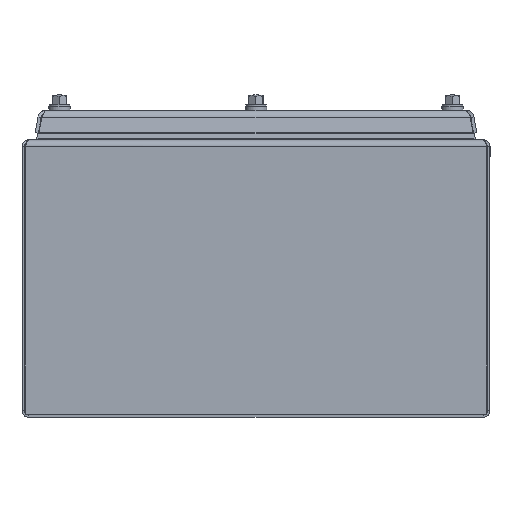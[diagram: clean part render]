
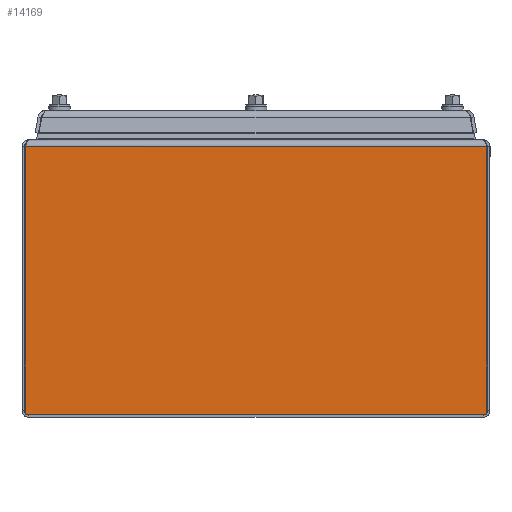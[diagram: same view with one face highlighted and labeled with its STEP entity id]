
A CAD part, front view. The second image highlights one B-rep face of the part: STEP entity #14169.
In plain terms, the highlighted planar face has unit normal (0, -1, 0).
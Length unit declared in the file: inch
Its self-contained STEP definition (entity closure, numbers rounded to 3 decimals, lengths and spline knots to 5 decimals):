
#133 = VERTEX_POINT ( 'NONE', #5224 ) ;
#366 = AXIS2_PLACEMENT_3D ( 'NONE', #15312, #5787, #16913 ) ;
#516 = CARTESIAN_POINT ( 'NONE',  ( 4.9945, 0., 5.856 ) ) ;
#1175 = EDGE_CURVE ( 'NONE', #5572, #6616, #9533, .T. ) ;
#3878 = CARTESIAN_POINT ( 'NONE',  ( -4.9945, 0., 0.068 ) ) ;
#5191 = CARTESIAN_POINT ( 'NONE',  ( -4.9945, 0., 0.068 ) ) ;
#5224 = CARTESIAN_POINT ( 'NONE',  ( -4.9945, 0., 5.856 ) ) ;
#5572 = VERTEX_POINT ( 'NONE', #9942 ) ;
#5762 = VECTOR ( 'NONE', #17343, 39.37008 ) ;
#5787 = DIRECTION ( 'NONE',  ( 0., 1., 0. ) ) ;
#6475 = CARTESIAN_POINT ( 'NONE',  ( -4.9945, 0., 0.068 ) ) ;
#6609 = CARTESIAN_POINT ( 'NONE',  ( 4.9945, 0., 0.068 ) ) ;
#6616 = VERTEX_POINT ( 'NONE', #3878 ) ;
#8350 = EDGE_LOOP ( 'NONE', ( #12341, #12781, #16392, #10473 ) ) ;
#8405 = LINE ( 'NONE', #6475, #12563 ) ;
#9107 = LINE ( 'NONE', #11198, #12782 ) ;
#9533 = LINE ( 'NONE', #5191, #5762 ) ;
#9691 = DIRECTION ( 'NONE',  ( -1., 0., 0. ) ) ;
#9942 = CARTESIAN_POINT ( 'NONE',  ( 4.9945, 0., 0.068 ) ) ;
#10389 = LINE ( 'NONE', #6609, #17822 ) ;
#10473 = ORIENTED_EDGE ( 'NONE', *, *, #10748, .F. ) ;
#10748 = EDGE_CURVE ( 'NONE', #13963, #5572, #10389, .T. ) ;
#11198 = CARTESIAN_POINT ( 'NONE',  ( 4.9945, 0., 5.856 ) ) ;
#11378 = EDGE_CURVE ( 'NONE', #6616, #133, #8405, .T. ) ;
#12325 = EDGE_CURVE ( 'NONE', #13963, #133, #9107, .T. ) ;
#12341 = ORIENTED_EDGE ( 'NONE', *, *, #12325, .T. ) ;
#12563 = VECTOR ( 'NONE', #17566, 39.37008 ) ;
#12781 = ORIENTED_EDGE ( 'NONE', *, *, #11378, .F. ) ;
#12782 = VECTOR ( 'NONE', #9691, 39.37008 ) ;
#13686 = PLANE ( 'NONE',  #366 ) ;
#13963 = VERTEX_POINT ( 'NONE', #516 ) ;
#14169 = ADVANCED_FACE ( 'NONE', ( #20421 ), #13686, .F. ) ;
#15312 = CARTESIAN_POINT ( 'NONE',  ( -4.9945, 0., 6. ) ) ;
#16126 = DIRECTION ( 'NONE',  ( 0., 0., -1. ) ) ;
#16392 = ORIENTED_EDGE ( 'NONE', *, *, #1175, .F. ) ;
#16913 = DIRECTION ( 'NONE',  ( 0., 0., 1. ) ) ;
#17343 = DIRECTION ( 'NONE',  ( -1., 0., 0. ) ) ;
#17566 = DIRECTION ( 'NONE',  ( 0., 0., 1. ) ) ;
#17822 = VECTOR ( 'NONE', #16126, 39.37008 ) ;
#20421 = FACE_OUTER_BOUND ( 'NONE', #8350, .T. ) ;
